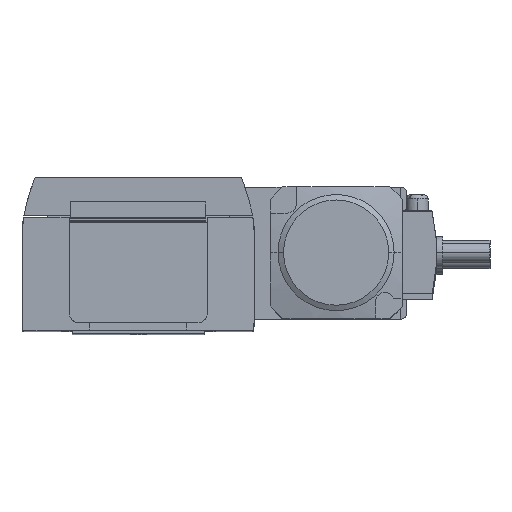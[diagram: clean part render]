
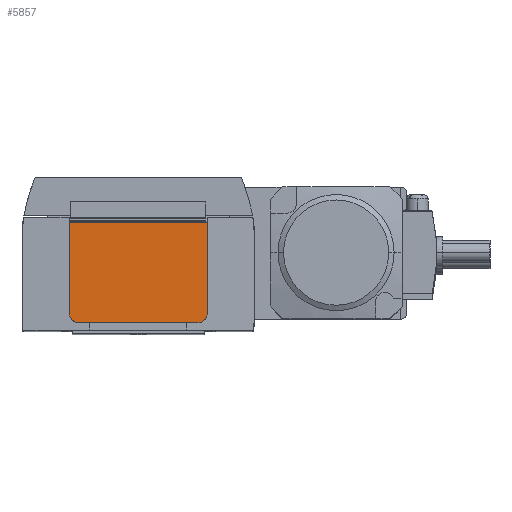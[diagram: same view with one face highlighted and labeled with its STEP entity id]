
A CAD part, top view. The second image highlights one B-rep face of the part: STEP entity #5857.
In plain terms, the highlighted planar face has unit normal (0, 0, 1).
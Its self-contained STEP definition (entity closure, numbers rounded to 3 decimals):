
#597 = VECTOR ( 'NONE', #20315, 1000. ) ;
#1369 = EDGE_CURVE ( 'NONE', #20408, #9400, #10818, .T. ) ;
#1407 = EDGE_CURVE ( 'NONE', #24993, #20408, #10155, .T. ) ;
#1539 = ORIENTED_EDGE ( 'NONE', *, *, #1407, .T. ) ;
#2792 = CARTESIAN_POINT ( 'NONE',  ( -22., -22.6, 268.7 ) ) ;
#3324 = CIRCLE ( 'NONE', #11573, 3. ) ;
#3648 = EDGE_CURVE ( 'NONE', #17015, #24993, #26744, .T. ) ;
#3987 = DIRECTION ( 'NONE',  ( 0., 0., 1. ) ) ;
#4401 = CARTESIAN_POINT ( 'NONE',  ( 22., 9.4, 268.7 ) ) ;
#4884 = DIRECTION ( 'NONE',  ( 1., 0., 0. ) ) ;
#5857 = ADVANCED_FACE ( 'NONE', ( #20741 ), #13159, .T. ) ;
#5915 = VECTOR ( 'NONE', #24627, 1000. ) ;
#6824 = ORIENTED_EDGE ( 'NONE', *, *, #18186, .F. ) ;
#6838 = EDGE_LOOP ( 'NONE', ( #25865, #1539, #25295, #6824, #22122, #24470 ) ) ;
#7686 = DIRECTION ( 'NONE',  ( 0., 0., 1. ) ) ;
#7867 = CARTESIAN_POINT ( 'NONE',  ( -22., 11., 268.7 ) ) ;
#9400 = VERTEX_POINT ( 'NONE', #4401 ) ;
#9732 = AXIS2_PLACEMENT_3D ( 'NONE', #2792, #17324, #4884 ) ;
#10155 = CIRCLE ( 'NONE', #21061, 3. ) ;
#10818 = LINE ( 'NONE', #22548, #5915 ) ;
#11573 = AXIS2_PLACEMENT_3D ( 'NONE', #20148, #7686, #22260 ) ;
#11909 = VERTEX_POINT ( 'NONE', #23474 ) ;
#12174 = EDGE_CURVE ( 'NONE', #11909, #17932, #25078, .T. ) ;
#12673 = DIRECTION ( 'NONE',  ( 1., 0., 0. ) ) ;
#13159 = PLANE ( 'NONE',  #9732 ) ;
#14484 = VECTOR ( 'NONE', #12673, 1000. ) ;
#16432 = CARTESIAN_POINT ( 'NONE',  ( 19., -19.6, 268.7 ) ) ;
#17015 = VERTEX_POINT ( 'NONE', #23842 ) ;
#17324 = DIRECTION ( 'NONE',  ( 0., 0., 1. ) ) ;
#17932 = VERTEX_POINT ( 'NONE', #26873 ) ;
#18186 = EDGE_CURVE ( 'NONE', #11909, #9400, #26731, .T. ) ;
#18522 = DIRECTION ( 'NONE',  ( 1., 0., 0. ) ) ;
#18832 = CARTESIAN_POINT ( 'NONE',  ( -22., -22.6, 268.7 ) ) ;
#20148 = CARTESIAN_POINT ( 'NONE',  ( -19., -19.6, 268.7 ) ) ;
#20315 = DIRECTION ( 'NONE',  ( 0., -1., 0. ) ) ;
#20408 = VERTEX_POINT ( 'NONE', #20549 ) ;
#20549 = CARTESIAN_POINT ( 'NONE',  ( 22., -19.6, 268.7 ) ) ;
#20741 = FACE_OUTER_BOUND ( 'NONE', #6838, .T. ) ;
#21061 = AXIS2_PLACEMENT_3D ( 'NONE', #16432, #3987, #18522 ) ;
#21616 = CARTESIAN_POINT ( 'NONE',  ( 19., -22.6, 268.7 ) ) ;
#22122 = ORIENTED_EDGE ( 'NONE', *, *, #12174, .T. ) ;
#22179 = VECTOR ( 'NONE', #26137, 1000. ) ;
#22260 = DIRECTION ( 'NONE',  ( 1., 0., 0. ) ) ;
#22548 = CARTESIAN_POINT ( 'NONE',  ( 22., 11., 268.7 ) ) ;
#23474 = CARTESIAN_POINT ( 'NONE',  ( -22., 9.4, 268.7 ) ) ;
#23842 = CARTESIAN_POINT ( 'NONE',  ( -19., -22.6, 268.7 ) ) ;
#24063 = CARTESIAN_POINT ( 'NONE',  ( 22., 9.4, 268.7 ) ) ;
#24470 = ORIENTED_EDGE ( 'NONE', *, *, #26835, .T. ) ;
#24627 = DIRECTION ( 'NONE',  ( 0., 1., 0. ) ) ;
#24993 = VERTEX_POINT ( 'NONE', #21616 ) ;
#25078 = LINE ( 'NONE', #7867, #597 ) ;
#25295 = ORIENTED_EDGE ( 'NONE', *, *, #1369, .T. ) ;
#25865 = ORIENTED_EDGE ( 'NONE', *, *, #3648, .T. ) ;
#26137 = DIRECTION ( 'NONE',  ( 1., 0., 0. ) ) ;
#26731 = LINE ( 'NONE', #24063, #22179 ) ;
#26744 = LINE ( 'NONE', #18832, #14484 ) ;
#26835 = EDGE_CURVE ( 'NONE', #17932, #17015, #3324, .T. ) ;
#26873 = CARTESIAN_POINT ( 'NONE',  ( -22., -19.6, 268.7 ) ) ;
